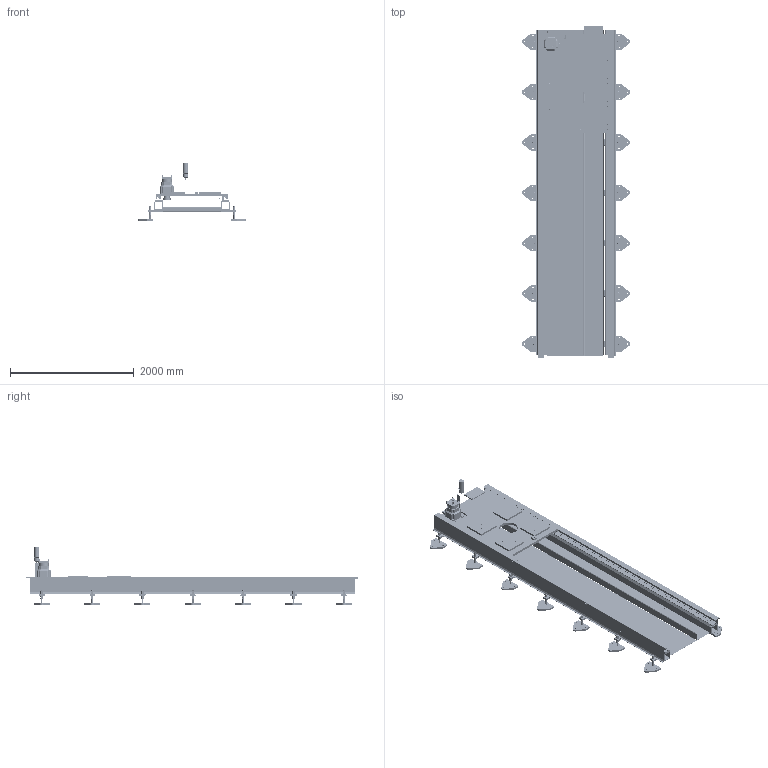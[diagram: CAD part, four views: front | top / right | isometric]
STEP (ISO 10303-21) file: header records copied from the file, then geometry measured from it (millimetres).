
FILE_DESCRIPTION (( 'STEP AP203' ), '1' );
FILE_NAME ('梓袧4000kg迍蟈囀离唳.STEP', '2021-10-15T08:35:57', ( '' ), ( '' ), 'SwSTEP 2.0', 'SolidWorks 2018', '' );
FILE_SCHEMA (( 'CONFIG_CONTROL_DESIGN' ));
Length unit declared in the file: millimetre
Products named in the file (43): 耜裔啣3-1; Sechskantschraube_M8x65; AF2202_S3-P0403600301; Mutter_M8; RSAG RAIL Mounting Plate Greasing Pinion; D04L25N70; 5242mm 标准轨道_默认<按加工>; M24-190佪裝; 熬厒儂嘐隅啣; GB／T97．2-1985平垫圈倒角型A级24×4; P18-100184-B003-433-嘐隅喘謫裔; 笭倰寢耋賑啣; 耜裔啣3; Zylinderschraube_M12x50ZXGD; ATLANTA Filzritzel 65-91-418; 耜裔啣4; 寢耋埻萸覦僅; 迍蟈絳砃羞-笢潔; P18-100184-B003-131-華褐啣; RSAG RAIL Assembly Stopper_Rear Stopper V1; HGL45HAZ0H lang; P18-100184-B003-130-華褐; 蟀諉啣; 润滑齿轮; 蛁蚐; Maedler Strukturdämpfer 69103400; U-Scheibe_M12ZXGD; 梓袧4000kg迍蟈囀离唳; 耳24爾諉倛袨; RSAG RAIL Mounting Plate Drag Chain V1; 裔啣; GB／T41-20001型六角螺母C级M24; 迍蟈絳砃羞; P18-100184-B003-430-熬厒儂耀輸; RSAG RAIL Stopper V1; 裔啣1; RSAG RAIL Ring; ATLANTA Befestigungsachse 65-91-400; 寢耋埻萸; 蛁蚐ん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
Assembly tree (86 placements, depth 5):
  梓袧4000kg迍蟈囀离唳
    5242mm 标准轨道_默认<按加工>
    賑啣郪璃
      P18-100184-B003-430-熬厒儂耀輸
        P18-100184-B003-433-嘐隅喘謫裔
        Zylinderschraube_M12x50ZXGD  x4
        U-Scheibe_M12ZXGD  x4
        D04L25N70
        AF2202_S3-P0403600301
        润滑齿轮
          RSAG RAIL Mounting Plate Greasing Pinion
          ATLANTA Befestigungsachse 65-91-400
          ATLANTA Filzritzel 65-91-418
        熬厒儂嘐隅啣
        Mutter_M8  x2
        Sechskantschraube_M8x65
      HGL45HAZ0H lang  x8
      笭倰寢耋賑啣
      蛁蚐
        蛁蚐儂嘐隅啣
        蛁蚐ん
      RSAG RAIL Mounting Plate Drag Chain V1
    迍蟈絳砃羞  x2
    迍蟈絳砃羞-笢潔
    耜裔啣3  x2
    耜裔啣3-1  x2
    耜裔啣4  x2
    RSAG RAIL Assembly Stopper_Rear Stopper V1  x2
      RSAG RAIL Stopper V1
      Maedler Strukturdämpfer 69103400
      RSAG RAIL Ring
    蟀諉啣  x6
    裔啣
      裔啣  x2
      裔啣1
    P18-100184-B003-130-華褐  x14
      P18-100184-B003-131-華褐啣
      M24-190佪裝
      耳24爾諉倛袨
      GB／T41-20001型六角螺母C级M24
      GB／T97．2-1985平垫圈倒角型A级24×4
    寢耋埻萸覦僅
    寢耋埻萸
Bounding box: 1745.72 x 5356.5 x 920.49 mm (x, y, z)
Volume: 247476737.6 mm3; surface area: 48351604.1 mm2
Topology: 229 solids, 269 shells, 8155 faces, 20587 edges, 12946 vertices
Faces by surface type: plane 3392, cylinder 2908, cone 1484, torus 324, bspline 39, sphere 8
Entity records: 125914 total; most frequent: CARTESIAN_POINT 31963, DIRECTION 18699, ORIENTED_EDGE 18134, EDGE_CURVE 9067, AXIS2_PLACEMENT_3D 7097, VERTEX_POINT 5896, EDGE_LOOP 4517, VECTOR 4505
